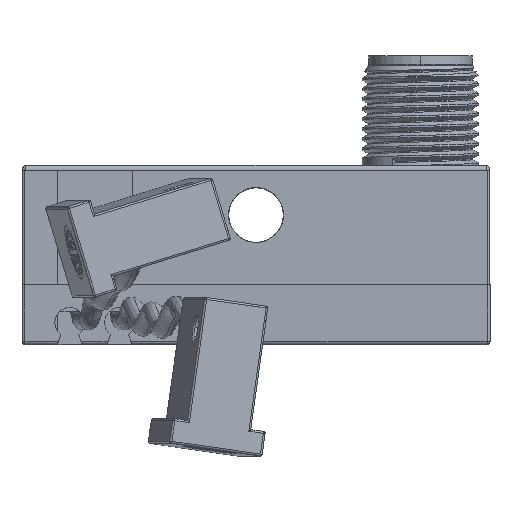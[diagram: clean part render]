
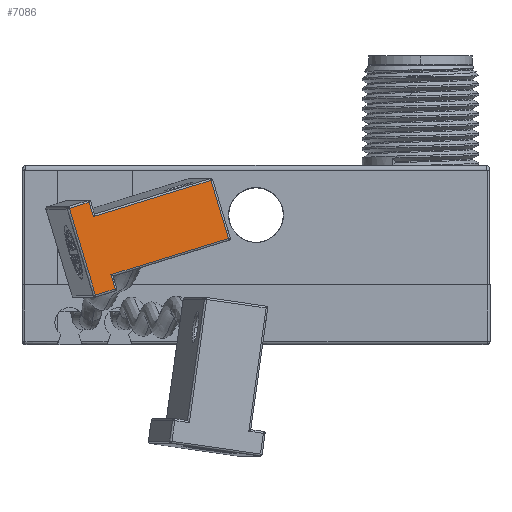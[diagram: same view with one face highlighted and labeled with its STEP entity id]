
A CAD part, top view. The second image highlights one B-rep face of the part: STEP entity #7086.
In plain terms, the highlighted planar face has unit normal (0.157, 0, 0.988).
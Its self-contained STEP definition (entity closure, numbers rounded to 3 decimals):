
#3751 = EDGE_LOOP ( 'NONE', ( #22248, #17926, #22272, #17339, #22285, #21966, #21910, #21893 ) ) ;
#4384 = VERTEX_POINT ( 'NONE', #7507 ) ;
#4392 = VERTEX_POINT ( 'NONE', #7492 ) ;
#4632 = VERTEX_POINT ( 'NONE', #7235 ) ;
#4685 = VERTEX_POINT ( 'NONE', #7153 ) ;
#4850 = VERTEX_POINT ( 'NONE', #30876 ) ;
#5224 = VERTEX_POINT ( 'NONE', #30520 ) ;
#5246 = VERTEX_POINT ( 'NONE', #30510 ) ;
#5671 = VERTEX_POINT ( 'NONE', #30320 ) ;
#7086 = ADVANCED_FACE ( 'NONE', ( #14011 ), #14292, .T. ) ;
#7153 = CARTESIAN_POINT ( 'NONE',  ( -16.325, -5.28, 74.788 ) ) ;
#7235 = CARTESIAN_POINT ( 'NONE',  ( -18.74, -4.457, 75.172 ) ) ;
#7492 = CARTESIAN_POINT ( 'NONE',  ( -14.57, -11.115, 74.51 ) ) ;
#7507 = CARTESIAN_POINT ( 'NONE',  ( -14.138, -12.55, 74.441 ) ) ;
#12001 = EDGE_CURVE ( 'NONE', #5671, #4384, #13148, .T. ) ;
#12009 = EDGE_CURVE ( 'NONE', #4384, #4392, #13172, .T. ) ;
#12201 = EDGE_CURVE ( 'NONE', #4632, #5671, #31413, .T. ) ;
#12217 = EDGE_CURVE ( 'NONE', #4685, #5246, #31148, .T. ) ;
#12241 = EDGE_CURVE ( 'NONE', #4850, #5224, #31172, .T. ) ;
#12248 = EDGE_CURVE ( 'NONE', #5246, #4632, #31178, .T. ) ;
#12256 = EDGE_CURVE ( 'NONE', #4392, #4850, #31188, .T. ) ;
#12491 = EDGE_CURVE ( 'NONE', #5224, #4685, #31328, .T. ) ;
#13148 = LINE ( 'NONE', #24801, #13151 ) ;
#13151 = VECTOR ( 'NONE', #24790, 1000. ) ;
#13172 = LINE ( 'NONE', #24747, #13177 ) ;
#13177 = VECTOR ( 'NONE', #24746, 1000. ) ;
#14011 = FACE_OUTER_BOUND ( 'NONE', #3751, .T. ) ;
#14258 = DIRECTION ( 'NONE',  ( 0.988, 0., -0.157 ) ) ;
#14260 = DIRECTION ( 'NONE',  ( 0.157, 0., 0.988 ) ) ;
#14281 = CARTESIAN_POINT ( 'NONE',  ( -16.756, -3.845, 74.857 ) ) ;
#14292 = PLANE ( 'NONE',  #15319 ) ;
#15319 = AXIS2_PLACEMENT_3D ( 'NONE', #14281, #14260, #14258 ) ;
#17339 = ORIENTED_EDGE ( 'NONE', *, *, #12001, .T. ) ;
#17926 = ORIENTED_EDGE ( 'NONE', *, *, #12248, .T. ) ;
#21435 = DIRECTION ( 'NONE',  ( -0.945, -0.291, 0.15 ) ) ;
#21446 = CARTESIAN_POINT ( 'NONE',  ( -4.515, -1.639, 72.913 ) ) ;
#21893 = ORIENTED_EDGE ( 'NONE', *, *, #12491, .T. ) ;
#21910 = ORIENTED_EDGE ( 'NONE', *, *, #12241, .T. ) ;
#21966 = ORIENTED_EDGE ( 'NONE', *, *, #12256, .T. ) ;
#22248 = ORIENTED_EDGE ( 'NONE', *, *, #12217, .T. ) ;
#22272 = ORIENTED_EDGE ( 'NONE', *, *, #12201, .T. ) ;
#22285 = ORIENTED_EDGE ( 'NONE', *, *, #12009, .T. ) ;
#24204 = DIRECTION ( 'NONE',  ( 0.945, 0.291, -0.15 ) ) ;
#24205 = CARTESIAN_POINT ( 'NONE',  ( -14.57, -11.115, 74.51 ) ) ;
#24214 = DIRECTION ( 'NONE',  ( -0.945, -0.291, 0.15 ) ) ;
#24215 = CARTESIAN_POINT ( 'NONE',  ( -16.756, -3.845, 74.857 ) ) ;
#24220 = DIRECTION ( 'NONE',  ( -0.288, 0.957, 0.046 ) ) ;
#24221 = CARTESIAN_POINT ( 'NONE',  ( -2.76, -7.474, 72.635 ) ) ;
#24264 = DIRECTION ( 'NONE',  ( -0.288, 0.957, 0.046 ) ) ;
#24265 = CARTESIAN_POINT ( 'NONE',  ( -16.325, -5.28, 74.788 ) ) ;
#24286 = DIRECTION ( 'NONE',  ( 0.288, -0.957, -0.046 ) ) ;
#24287 = CARTESIAN_POINT ( 'NONE',  ( -18.74, -4.457, 75.172 ) ) ;
#24746 = DIRECTION ( 'NONE',  ( -0.288, 0.957, 0.046 ) ) ;
#24747 = CARTESIAN_POINT ( 'NONE',  ( -14.138, -12.55, 74.441 ) ) ;
#24790 = DIRECTION ( 'NONE',  ( 0.945, 0.291, -0.15 ) ) ;
#24801 = CARTESIAN_POINT ( 'NONE',  ( -16.122, -13.162, 74.756 ) ) ;
#30320 = CARTESIAN_POINT ( 'NONE',  ( -16.122, -13.162, 74.756 ) ) ;
#30510 = CARTESIAN_POINT ( 'NONE',  ( -16.756, -3.845, 74.857 ) ) ;
#30520 = CARTESIAN_POINT ( 'NONE',  ( -4.515, -1.639, 72.913 ) ) ;
#30876 = CARTESIAN_POINT ( 'NONE',  ( -2.76, -7.474, 72.635 ) ) ;
#31134 = VECTOR ( 'NONE', #24286, 1000. ) ;
#31148 = LINE ( 'NONE', #24265, #31161 ) ;
#31161 = VECTOR ( 'NONE', #24264, 1000. ) ;
#31172 = LINE ( 'NONE', #24221, #31173 ) ;
#31173 = VECTOR ( 'NONE', #24220, 1000. ) ;
#31178 = LINE ( 'NONE', #24215, #31179 ) ;
#31179 = VECTOR ( 'NONE', #24214, 1000. ) ;
#31188 = LINE ( 'NONE', #24205, #31190 ) ;
#31190 = VECTOR ( 'NONE', #24204, 1000. ) ;
#31328 = LINE ( 'NONE', #21446, #31353 ) ;
#31353 = VECTOR ( 'NONE', #21435, 1000. ) ;
#31413 = LINE ( 'NONE', #24287, #31134 ) ;
